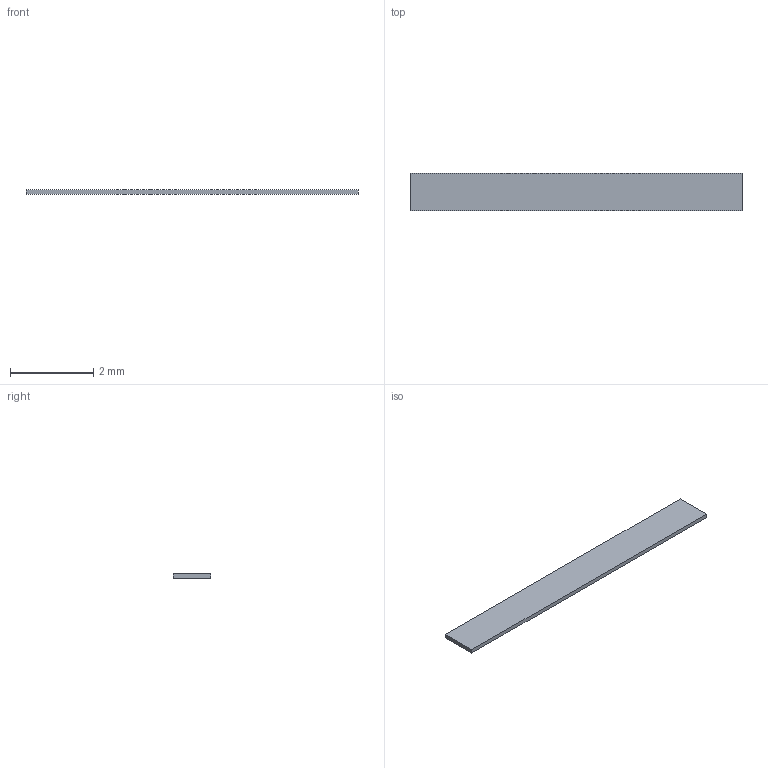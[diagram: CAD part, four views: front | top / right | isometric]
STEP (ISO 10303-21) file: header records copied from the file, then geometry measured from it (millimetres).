
FILE_DESCRIPTION(('Open CASCADE Model'),'2;1');
FILE_NAME('Open CASCADE Shape Model','2026-09-15T14:08:00',('Author'),( 'Open CASCADE'),'Open CASCADE STEP processor 7.7','Open CASCADE 7.7' ,'Unknown');
FILE_SCHEMA(('AUTOMOTIVE_DESIGN { 1 0 10303 214 1 1 1 1 }'));
Length unit declared in the file: millimetre
Products named in the file (1): J9_STOCK_SPLICE_SILICONE_FACING_0p10
Bounding box: 8 x 0.9 x 0.1 mm (x, y, z)
Volume: 0.7 mm3; surface area: 16.2 mm2
Topology: 1 solids, 1 shells, 6 faces, 12 edges, 8 vertices
Faces by surface type: plane 6
Entity records: 322 total; most frequent: CARTESIAN_POINT 51, DIRECTION 50, LINE 36, VECTOR 36, ORIENTED_EDGE 24, PCURVE 24, DEFINITIONAL_REPRESENTATION 24, EDGE_CURVE 12
